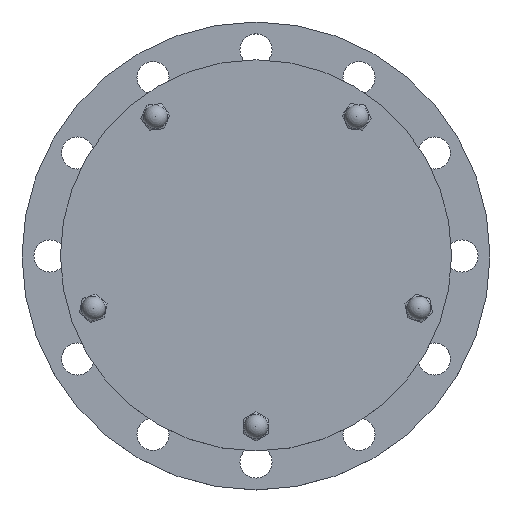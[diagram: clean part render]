
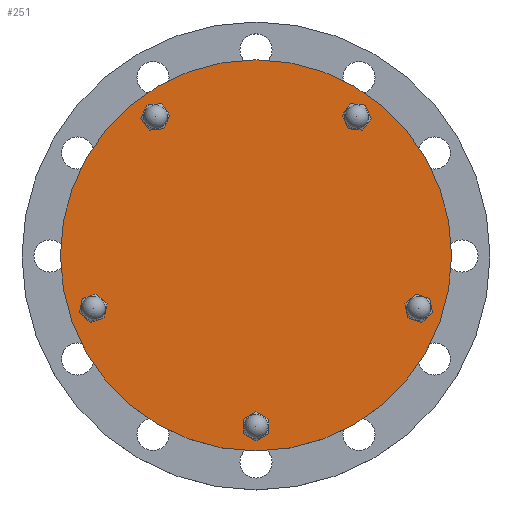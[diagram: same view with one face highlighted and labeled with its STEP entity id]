
A CAD part, top view. The second image highlights one B-rep face of the part: STEP entity #251.
In plain terms, the highlighted planar face has unit normal (0, 0, 1).
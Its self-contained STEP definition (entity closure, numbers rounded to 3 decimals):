
#251=ADVANCED_FACE('',(#1003,#1005,#1007,#1009),#1011,.T.);
#1003=FACE_BOUND('',#1004,.T.);
#1004=EDGE_LOOP('',(#1939));
#1005=FACE_BOUND('',#1006,.T.);
#1006=EDGE_LOOP('',(#1940));
#1007=FACE_BOUND('',#1008,.T.);
#1008=EDGE_LOOP('',(#1941));
#1009=FACE_BOUND('',#1010,.T.);
#1010=EDGE_LOOP('',(#1942));
#1011=PLANE('',#1012);
#1012=AXIS2_PLACEMENT_3D('',#1013,#1014,#1015);
#1013=CARTESIAN_POINT('',(0.,0.,273.));
#1014=DIRECTION('',(0.,0.,1.));
#1015=DIRECTION('',(-1.,0.,0.));
#1939=ORIENTED_EDGE('',*,*,#2385,.F.);
#1940=ORIENTED_EDGE('',*,*,#2386,.F.);
#1941=ORIENTED_EDGE('',*,*,#2387,.F.);
#1942=ORIENTED_EDGE('',*,*,#2388,.F.);
#2385=EDGE_CURVE('',#2578,#2578,#2579,.T.);
#2386=EDGE_CURVE('',#2580,#2580,#2581,.T.);
#2387=EDGE_CURVE('',#2582,#2582,#2583,.T.);
#2388=EDGE_CURVE('',#2584,#2584,#2585,.T.);
#2578=VERTEX_POINT('',#2899);
#2579=CIRCLE('',#2900,140.);
#2580=VERTEX_POINT('',#2904);
#2581=CIRCLE('',#2905,8.1);
#2582=VERTEX_POINT('',#2909);
#2583=CIRCLE('',#2910,8.1);
#2584=VERTEX_POINT('',#2914);
#2585=CIRCLE('',#2915,8.1);
#2899=CARTESIAN_POINT('',(-140.,0.,273.));
#2900=AXIS2_PLACEMENT_3D('',#2901,#2902,#2903);
#2901=CARTESIAN_POINT('',(0.,0.,273.));
#2902=DIRECTION('',(0.,0.,-1.));
#2903=DIRECTION('',(-1.,0.,0.));
#2904=CARTESIAN_POINT('',(-76.765,105.658,273.));
#2905=AXIS2_PLACEMENT_3D('',#2906,#2907,#2908);
#2906=CARTESIAN_POINT('',(-72.004,99.105,273.));
#2907=DIRECTION('',(0.,0.,1.));
#2908=DIRECTION('',(-0.588,0.809,0.));
#2909=CARTESIAN_POINT('',(0.,-130.6,273.));
#2910=AXIS2_PLACEMENT_3D('',#2911,#2912,#2913);
#2911=CARTESIAN_POINT('',(0.,-122.5,273.));
#2912=DIRECTION('',(0.,0.,1.));
#2913=DIRECTION('',(0.,-1.,0.));
#2914=CARTESIAN_POINT('',(-124.208,-40.358,273.));
#2915=AXIS2_PLACEMENT_3D('',#2916,#2917,#2918);
#2916=CARTESIAN_POINT('',(-116.504,-37.855,273.));
#2917=DIRECTION('',(0.,0.,1.));
#2918=DIRECTION('',(-0.951,-0.309,0.));
